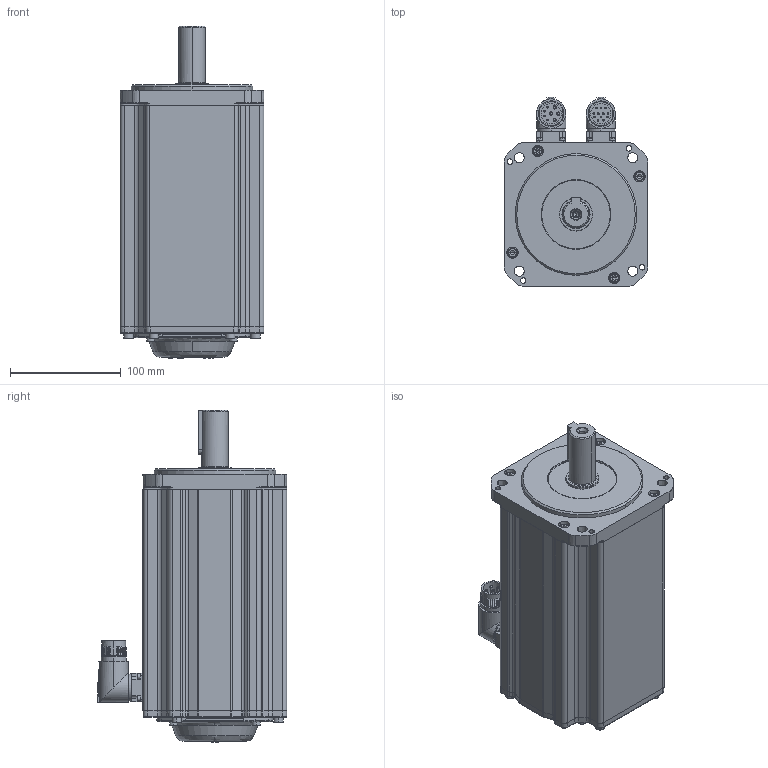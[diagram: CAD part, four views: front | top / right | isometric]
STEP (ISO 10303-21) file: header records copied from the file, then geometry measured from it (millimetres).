
FILE_DESCRIPTION (( 'STEP AP203' ), '1' );
FILE_NAME ('MC20-130-3L30-N502-0¡õPK-NNNN.STEP', '2025-10-08T02:02:01', ( '' ), ( '' ), 'SwSTEP 2.0', 'SolidWorks 2014', '' );
FILE_SCHEMA (( 'CONFIG_CONTROL_DESIGN' ));
Length unit declared in the file: millimetre
Products named in the file (1): MC20-130-3L30-N502-0¡õPK-NNNN
Bounding box: 130 x 171.35 x 300.2 mm (x, y, z)
Volume: 3543930.9 mm3; surface area: 311066.7 mm2
Topology: 28 solids, 28 shells, 2024 faces, 4803 edges, 2863 vertices
Faces by surface type: plane 735, cylinder 568, cone 357, bspline 204, torus 148, sphere 12
Entity records: 62203 total; most frequent: CARTESIAN_POINT 16842, DIRECTION 9530, ORIENTED_EDGE 9382, EDGE_CURVE 4691, AXIS2_PLACEMENT_3D 3694, VERTEX_POINT 2863, EDGE_LOOP 2270, LINE 2142
